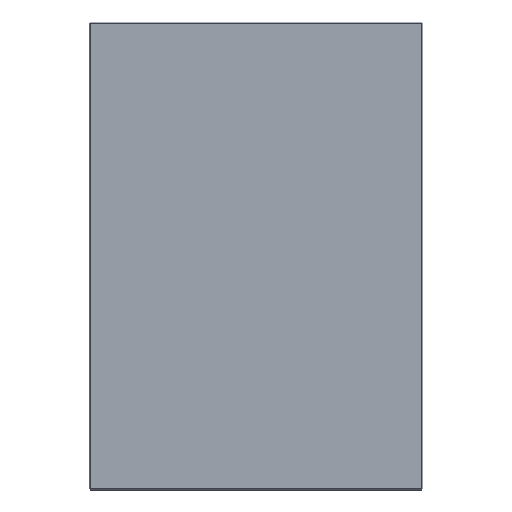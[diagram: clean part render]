
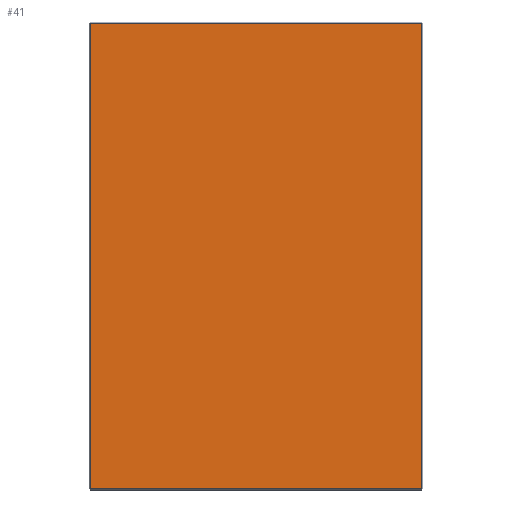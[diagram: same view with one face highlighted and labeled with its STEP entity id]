
A CAD part, top view. The second image highlights one B-rep face of the part: STEP entity #41.
In plain terms, the highlighted planar face has unit normal (0, 0, 1).
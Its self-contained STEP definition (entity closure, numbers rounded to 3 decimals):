
#19 = VERTEX_POINT ( 'NONE', #296 ) ;
#41 = ADVANCED_FACE ( 'NONE', ( #126 ), #628, .T. ) ;
#58 = CARTESIAN_POINT ( 'NONE',  ( 159., -222., 17. ) ) ;
#126 = FACE_OUTER_BOUND ( 'NONE', #481, .T. ) ;
#133 = AXIS2_PLACEMENT_3D ( 'NONE', #205, #339, #508 ) ;
#173 = VECTOR ( 'NONE', #414, 1000. ) ;
#191 = VERTEX_POINT ( 'NONE', #246 ) ;
#205 = CARTESIAN_POINT ( 'NONE',  ( 0., 0., 17. ) ) ;
#213 = VECTOR ( 'NONE', #588, 1000. ) ;
#232 = ORIENTED_EDGE ( 'NONE', *, *, #482, .T. ) ;
#246 = CARTESIAN_POINT ( 'NONE',  ( -158., -222., 17. ) ) ;
#256 = DIRECTION ( 'NONE',  ( 1., 0., 0. ) ) ;
#265 = CARTESIAN_POINT ( 'NONE',  ( -158., -223., 17. ) ) ;
#276 = LINE ( 'NONE', #265, #625 ) ;
#296 = CARTESIAN_POINT ( 'NONE',  ( 158., -222., 17. ) ) ;
#332 = DIRECTION ( 'NONE',  ( 0., -1., 0. ) ) ;
#339 = DIRECTION ( 'NONE',  ( 0., 0., 1. ) ) ;
#367 = CARTESIAN_POINT ( 'NONE',  ( -159., 222., 17. ) ) ;
#370 = LINE ( 'NONE', #367, #173 ) ;
#388 = ORIENTED_EDGE ( 'NONE', *, *, #528, .T. ) ;
#401 = ORIENTED_EDGE ( 'NONE', *, *, #475, .T. ) ;
#410 = LINE ( 'NONE', #58, #568 ) ;
#414 = DIRECTION ( 'NONE',  ( -1., 0., 0. ) ) ;
#423 = EDGE_CURVE ( 'NONE', #447, #562, #370, .T. ) ;
#424 = CARTESIAN_POINT ( 'NONE',  ( 158., 223., 17. ) ) ;
#447 = VERTEX_POINT ( 'NONE', #552 ) ;
#475 = EDGE_CURVE ( 'NONE', #562, #191, #276, .T. ) ;
#481 = EDGE_LOOP ( 'NONE', ( #388, #609, #401, #232 ) ) ;
#482 = EDGE_CURVE ( 'NONE', #191, #19, #410, .T. ) ;
#508 = DIRECTION ( 'NONE',  ( 1., 0., 0. ) ) ;
#528 = EDGE_CURVE ( 'NONE', #19, #447, #576, .T. ) ;
#552 = CARTESIAN_POINT ( 'NONE',  ( 158., 222., 17. ) ) ;
#562 = VERTEX_POINT ( 'NONE', #607 ) ;
#568 = VECTOR ( 'NONE', #256, 1000. ) ;
#576 = LINE ( 'NONE', #424, #213 ) ;
#588 = DIRECTION ( 'NONE',  ( 0., 1., 0. ) ) ;
#607 = CARTESIAN_POINT ( 'NONE',  ( -158., 222., 17. ) ) ;
#609 = ORIENTED_EDGE ( 'NONE', *, *, #423, .T. ) ;
#625 = VECTOR ( 'NONE', #332, 1000. ) ;
#628 = PLANE ( 'NONE',  #133 ) ;
